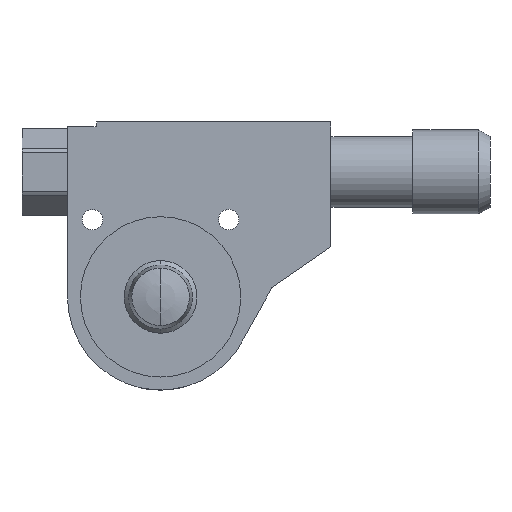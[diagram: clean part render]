
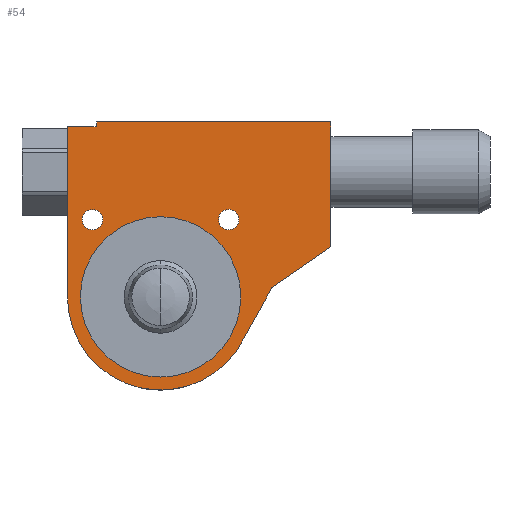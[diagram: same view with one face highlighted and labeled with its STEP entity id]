
A CAD part, front view. The second image highlights one B-rep face of the part: STEP entity #54.
In plain terms, the highlighted planar face has unit normal (0, -1, 0).
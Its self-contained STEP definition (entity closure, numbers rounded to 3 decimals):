
#54=ADVANCED_FACE('',(#246,#247,#248,#249),#245,.F.);
#245=PLANE('',#751);
#246=FACE_OUTER_BOUND('',#752,.T.);
#247=FACE_BOUND('',#753,.T.);
#248=FACE_BOUND('',#754,.T.);
#249=FACE_BOUND('',#755,.T.);
#748=CARTESIAN_POINT('',(4.2,-10.,-57.31));
#749=DIRECTION('',(0.,1.,0.));
#750=DIRECTION('',(0.,0.,1.));
#751=AXIS2_PLACEMENT_3D('',#748,#749,#750);
#752=EDGE_LOOP('',(#1088,#1089,#1090,#1091,#1092,#1093,#1094,#1095));
#753=EDGE_LOOP('',(#1096,#1097));
#754=EDGE_LOOP('',(#1098,#1099));
#755=EDGE_LOOP('',(#1100,#1101));
#1088=ORIENTED_EDGE('',*,*,#1287,.T.);
#1089=ORIENTED_EDGE('',*,*,#1289,.T.);
#1090=ORIENTED_EDGE('',*,*,#1303,.T.);
#1091=ORIENTED_EDGE('',*,*,#1307,.T.);
#1092=ORIENTED_EDGE('',*,*,#1309,.T.);
#1093=ORIENTED_EDGE('',*,*,#1311,.T.);
#1094=ORIENTED_EDGE('',*,*,#1285,.T.);
#1095=ORIENTED_EDGE('',*,*,#1270,.T.);
#1096=ORIENTED_EDGE('',*,*,#1332,.F.);
#1097=ORIENTED_EDGE('',*,*,#1333,.F.);
#1098=ORIENTED_EDGE('',*,*,#1334,.F.);
#1099=ORIENTED_EDGE('',*,*,#1335,.F.);
#1100=ORIENTED_EDGE('',*,*,#1336,.T.);
#1101=ORIENTED_EDGE('',*,*,#1337,.T.);
#1270=EDGE_CURVE('',#1400,#1401,#1402,.T.);
#1285=EDGE_CURVE('',#1504,#1400,#1505,.T.);
#1287=EDGE_CURVE('',#1401,#1517,#1518,.T.);
#1289=EDGE_CURVE('',#1517,#1530,#1531,.T.);
#1303=EDGE_CURVE('',#1530,#1627,#1628,.T.);
#1307=EDGE_CURVE('',#1627,#1654,#1655,.T.);
#1309=EDGE_CURVE('',#1654,#1667,#1668,.T.);
#1311=EDGE_CURVE('',#1667,#1504,#1680,.T.);
#1332=EDGE_CURVE('',#1826,#1827,#1828,.T.);
#1333=EDGE_CURVE('',#1827,#1826,#1834,.T.);
#1334=EDGE_CURVE('',#1840,#1841,#1842,.T.);
#1335=EDGE_CURVE('',#1841,#1840,#1848,.T.);
#1336=EDGE_CURVE('',#1854,#1855,#1856,.T.);
#1337=EDGE_CURVE('',#1855,#1854,#1862,.T.);
#1400=VERTEX_POINT('',#2265);
#1401=VERTEX_POINT('',#2266);
#1402=LINE('',#2267,#2268);
#1504=VERTEX_POINT('',#2329);
#1505=LINE('',#2330,#2331);
#1517=VERTEX_POINT('',#2336);
#1518=LINE('',#2337,#2338);
#1530=VERTEX_POINT('',#2343);
#1531=LINE('',#2344,#2345);
#1627=VERTEX_POINT('',#2404);
#1628=CIRCLE('',#2408,20.5);
#1654=VERTEX_POINT('',#2482);
#1655=LINE('',#2483,#2484);
#1667=VERTEX_POINT('',#2489);
#1668=LINE('',#2490,#2491);
#1680=LINE('',#2496,#2497);
#1826=VERTEX_POINT('',#2599);
#1827=VERTEX_POINT('',#2600);
#1828=CIRCLE('',#2604,2.25);
#1834=CIRCLE('',#2608,2.25);
#1840=VERTEX_POINT('',#2609);
#1841=VERTEX_POINT('',#2610);
#1842=CIRCLE('',#2614,2.25);
#1848=CIRCLE('',#2618,2.25);
#1854=VERTEX_POINT('',#2619);
#1855=VERTEX_POINT('',#2620);
#1856=CIRCLE('',#2624,17.65);
#1862=CIRCLE('',#2628,17.65);
#2265=CARTESIAN_POINT('',(16.47,-10.,11.));
#2266=CARTESIAN_POINT('',(16.294,-10.,10.));
#2267=CARTESIAN_POINT('',(16.47,-10.,11.));
#2268=VECTOR('',#2269,1.015);
#2269=DIRECTION('',(-0.174,0.,-0.985));
#2329=CARTESIAN_POINT('',(68.,-10.,11.));
#2330=CARTESIAN_POINT('',(68.,-10.,11.));
#2331=VECTOR('',#2332,51.53);
#2332=DIRECTION('',(-1.,0.,0.));
#2336=CARTESIAN_POINT('',(10.,-10.,10.));
#2337=CARTESIAN_POINT('',(16.294,-10.,10.));
#2338=VECTOR('',#2339,6.294);
#2339=DIRECTION('',(-1.,0.,0.));
#2343=CARTESIAN_POINT('',(10.,-10.,-27.5));
#2344=CARTESIAN_POINT('',(10.,-10.,10.));
#2345=VECTOR('',#2346,37.5);
#2346=DIRECTION('',(0.,0.,-1.));
#2404=CARTESIAN_POINT('',(49.025,-10.,-36.279));
#2405=CARTESIAN_POINT('',(30.5,-10.,-27.5));
#2406=DIRECTION('',(0.,-1.,0.));
#2407=DIRECTION('',(0.904,0.,-0.428));
#2408=AXIS2_PLACEMENT_3D('',#2405,#2406,#2407);
#2482=CARTESIAN_POINT('',(55.,-10.,-25.5));
#2483=CARTESIAN_POINT('',(49.025,-10.,-36.279));
#2484=VECTOR('',#2485,12.324);
#2485=DIRECTION('',(0.485,0.,0.875));
#2489=CARTESIAN_POINT('',(68.,-10.,-16.5));
#2490=CARTESIAN_POINT('',(55.,-10.,-25.5));
#2491=VECTOR('',#2492,15.811);
#2492=DIRECTION('',(0.822,0.,0.569));
#2496=CARTESIAN_POINT('',(68.,-10.,-16.5));
#2497=VECTOR('',#2498,27.5);
#2498=DIRECTION('',(0.,0.,1.));
#2599=CARTESIAN_POINT('',(45.5,-10.,-12.75));
#2600=CARTESIAN_POINT('',(45.5,-10.,-8.25));
#2601=CARTESIAN_POINT('',(45.5,-10.,-10.5));
#2602=DIRECTION('',(0.,-1.,0.));
#2603=DIRECTION('',(0.,0.,1.));
#2604=AXIS2_PLACEMENT_3D('',#2601,#2602,#2603);
#2605=CARTESIAN_POINT('',(45.5,-10.,-10.5));
#2606=DIRECTION('',(0.,-1.,0.));
#2607=DIRECTION('',(0.,0.,1.));
#2608=AXIS2_PLACEMENT_3D('',#2605,#2606,#2607);
#2609=CARTESIAN_POINT('',(15.5,-10.,-12.75));
#2610=CARTESIAN_POINT('',(15.5,-10.,-8.25));
#2611=CARTESIAN_POINT('',(15.5,-10.,-10.5));
#2612=DIRECTION('',(0.,-1.,0.));
#2613=DIRECTION('',(0.,0.,1.));
#2614=AXIS2_PLACEMENT_3D('',#2611,#2612,#2613);
#2615=CARTESIAN_POINT('',(15.5,-10.,-10.5));
#2616=DIRECTION('',(0.,-1.,0.));
#2617=DIRECTION('',(0.,0.,1.));
#2618=AXIS2_PLACEMENT_3D('',#2615,#2616,#2617);
#2619=CARTESIAN_POINT('',(30.5,-10.,-9.85));
#2620=CARTESIAN_POINT('',(30.5,-10.,-45.15));
#2621=CARTESIAN_POINT('',(30.5,-10.,-27.5));
#2622=DIRECTION('',(0.,1.,0.));
#2623=DIRECTION('',(0.,0.,1.));
#2624=AXIS2_PLACEMENT_3D('',#2621,#2622,#2623);
#2625=CARTESIAN_POINT('',(30.5,-10.,-27.5));
#2626=DIRECTION('',(0.,1.,0.));
#2627=DIRECTION('',(0.,0.,1.));
#2628=AXIS2_PLACEMENT_3D('',#2625,#2626,#2627);
